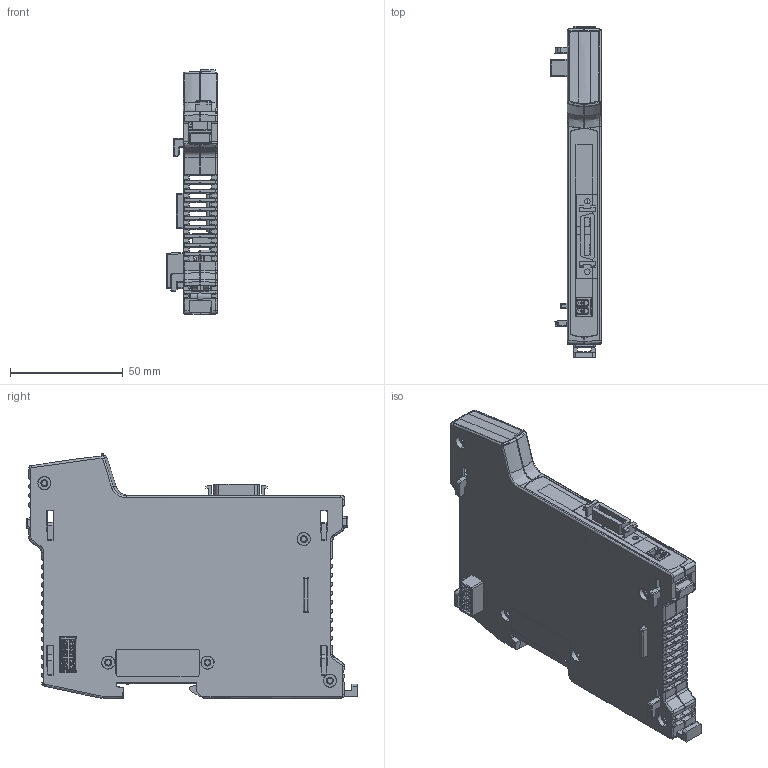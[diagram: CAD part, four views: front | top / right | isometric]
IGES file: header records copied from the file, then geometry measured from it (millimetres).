
Global section: file name: C:\Users\MarkK\Desktop\Flexslice Expansion Module Assembly Solid\FLEXSLICE EXPANSION MODULE ASSEMBLY.igs; native system: Rhinoceros ( May 22 2017 ); preprocessor: Trout Lake IGES 012 May 22 2017; author: Trio-MK; date: 171220.094618; units: millimetre
Bounding box: 22.47 x 146.72 x 108.56 mm (x, y, z)
Surface area: 86671.2 mm2 (no closed solid volume)
Topology: 0 solids, 0 shells, 6124 faces, 36829 edges, 36772 vertices
Faces by surface type: bspline 6124
